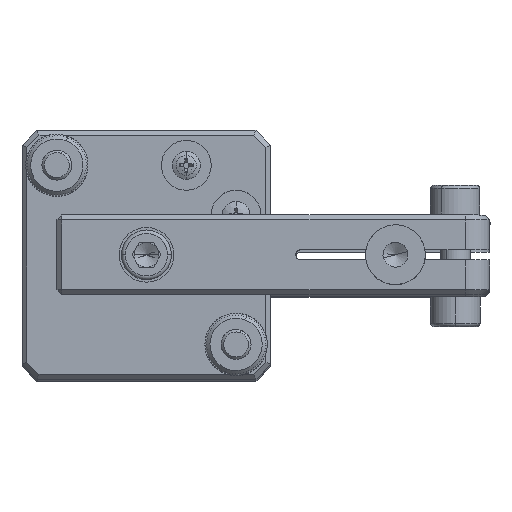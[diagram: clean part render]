
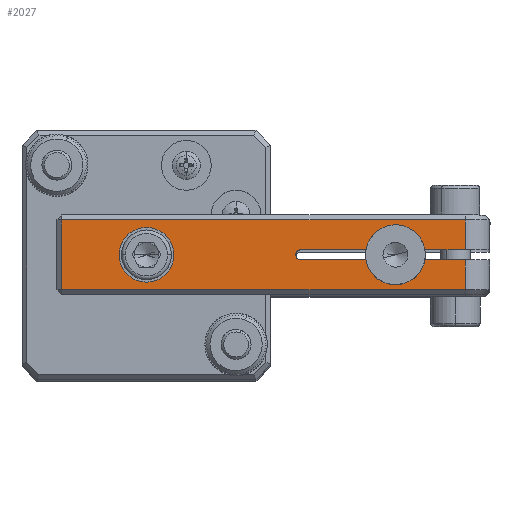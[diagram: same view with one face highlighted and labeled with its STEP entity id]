
A CAD part, top view. The second image highlights one B-rep face of the part: STEP entity #2027.
In plain terms, the highlighted planar face has unit normal (0, 0, 1) as drawn and (0, 0, -1) by its records, which use the part's own axes.
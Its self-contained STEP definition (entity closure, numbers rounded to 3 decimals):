
#77 = CARTESIAN_POINT ( 'NONE',  ( -1., 38., -8. ) ) ;
#148 = EDGE_CURVE ( 'NONE', #916, #20960, #14848, .T. ) ;
#170 = CARTESIAN_POINT ( 'NONE',  ( -1., 5., -8. ) ) ;
#272 = ORIENTED_EDGE ( 'NONE', *, *, #19335, .T. ) ;
#275 = EDGE_CURVE ( 'NONE', #20960, #21421, #7960, .T. ) ;
#692 = CIRCLE ( 'NONE', #21172, 6. ) ;
#758 = DIRECTION ( 'NONE',  ( 1., 0., 0. ) ) ;
#916 = VERTEX_POINT ( 'NONE', #17717 ) ;
#1155 = AXIS2_PLACEMENT_3D ( 'NONE', #18132, #18440, #8628 ) ;
#1804 = CARTESIAN_POINT ( 'NONE',  ( 1., 5., -8. ) ) ;
#1966 = EDGE_CURVE ( 'NONE', #20440, #15320, #18434, .T. ) ;
#2027 = ADVANCED_FACE ( 'NONE', ( #3937, #11385 ), #10624, .F. ) ;
#2043 = LINE ( 'NONE', #8676, #9266 ) ;
#2220 = VECTOR ( 'NONE', #5333, 1000. ) ;
#2353 = DIRECTION ( 'NONE',  ( 0., 0., 1. ) ) ;
#2423 = LINE ( 'NONE', #1804, #16921 ) ;
#2519 = CARTESIAN_POINT ( 'NONE',  ( 6., 19., -8. ) ) ;
#3260 = DIRECTION ( 'NONE',  ( 0., 0., 1. ) ) ;
#3366 = ORIENTED_EDGE ( 'NONE', *, *, #19453, .F. ) ;
#3489 = DIRECTION ( 'NONE',  ( -1., 0., 0. ) ) ;
#3678 = AXIS2_PLACEMENT_3D ( 'NONE', #15941, #17037, #17465 ) ;
#3931 = DIRECTION ( 'NONE',  ( 0., 0., 1. ) ) ;
#3937 = FACE_BOUND ( 'NONE', #15305, .T. ) ;
#4042 = DIRECTION ( 'NONE',  ( 1., 0., 0. ) ) ;
#4293 = VERTEX_POINT ( 'NONE', #13423 ) ;
#4496 = VECTOR ( 'NONE', #12397, 1000. ) ;
#4649 = CARTESIAN_POINT ( 'NONE',  ( -7., 5., -8. ) ) ;
#4784 = LINE ( 'NONE', #12101, #4496 ) ;
#5046 = EDGE_CURVE ( 'NONE', #21421, #4293, #2043, .T. ) ;
#5104 = EDGE_CURVE ( 'NONE', #14479, #6150, #16659, .T. ) ;
#5293 = DIRECTION ( 'NONE',  ( 0., -1., 0. ) ) ;
#5313 = ORIENTED_EDGE ( 'NONE', *, *, #19269, .T. ) ;
#5333 = DIRECTION ( 'NONE',  ( 0., 1., 0. ) ) ;
#5512 = CARTESIAN_POINT ( 'NONE',  ( -7., 86., -8. ) ) ;
#5541 = VECTOR ( 'NONE', #21150, 1000. ) ;
#5680 = CARTESIAN_POINT ( 'NONE',  ( -7., 87., -8. ) ) ;
#5774 = ORIENTED_EDGE ( 'NONE', *, *, #14559, .T. ) ;
#6011 = LINE ( 'NONE', #5680, #13726 ) ;
#6150 = VERTEX_POINT ( 'NONE', #12534 ) ;
#6319 = VERTEX_POINT ( 'NONE', #21376 ) ;
#6353 = ORIENTED_EDGE ( 'NONE', *, *, #148, .F. ) ;
#6628 = DIRECTION ( 'NONE',  ( 1., 0., 0. ) ) ;
#6726 = ORIENTED_EDGE ( 'NONE', *, *, #5104, .F. ) ;
#7198 = ORIENTED_EDGE ( 'NONE', *, *, #275, .F. ) ;
#7381 = ORIENTED_EDGE ( 'NONE', *, *, #10855, .F. ) ;
#7506 = VERTEX_POINT ( 'NONE', #13857 ) ;
#7960 = CIRCLE ( 'NONE', #12164, 1. ) ;
#8223 = VERTEX_POINT ( 'NONE', #16384 ) ;
#8588 = CARTESIAN_POINT ( 'NONE',  ( -1., 38., -8. ) ) ;
#8628 = DIRECTION ( 'NONE',  ( 1., 0., 0. ) ) ;
#8669 = DIRECTION ( 'NONE',  ( 1., 0., 0. ) ) ;
#8676 = CARTESIAN_POINT ( 'NONE',  ( 1., 38., -8. ) ) ;
#8805 = CARTESIAN_POINT ( 'NONE',  ( 0., 69., -8. ) ) ;
#9196 = CARTESIAN_POINT ( 'NONE',  ( 1., 38., -8. ) ) ;
#9246 = EDGE_CURVE ( 'NONE', #7506, #6319, #9819, .T. ) ;
#9266 = VECTOR ( 'NONE', #16930, 1000. ) ;
#9362 = AXIS2_PLACEMENT_3D ( 'NONE', #8805, #14056, #13758 ) ;
#9676 = AXIS2_PLACEMENT_3D ( 'NONE', #15686, #2353, #4042 ) ;
#9819 = LINE ( 'NONE', #21557, #16789 ) ;
#10624 = PLANE ( 'NONE',  #9676 ) ;
#10743 = ORIENTED_EDGE ( 'NONE', *, *, #1966, .F. ) ;
#10855 = EDGE_CURVE ( 'NONE', #8223, #17041, #19998, .T. ) ;
#10943 = CARTESIAN_POINT ( 'NONE',  ( 5.5, 69., -8. ) ) ;
#11385 = FACE_OUTER_BOUND ( 'NONE', #15477, .T. ) ;
#12101 = CARTESIAN_POINT ( 'NONE',  ( -8., 5., -8. ) ) ;
#12164 = AXIS2_PLACEMENT_3D ( 'NONE', #19462, #19619, #21163 ) ;
#12241 = LINE ( 'NONE', #16341, #19001 ) ;
#12397 = DIRECTION ( 'NONE',  ( -1., 0., 0. ) ) ;
#12534 = CARTESIAN_POINT ( 'NONE',  ( -1., 13.084, -8. ) ) ;
#12658 = ORIENTED_EDGE ( 'NONE', *, *, #14976, .T. ) ;
#13329 = CARTESIAN_POINT ( 'NONE',  ( -5.5, 69., -8. ) ) ;
#13423 = CARTESIAN_POINT ( 'NONE',  ( 1., 24.916, -8. ) ) ;
#13726 = VECTOR ( 'NONE', #14719, 1000. ) ;
#13758 = DIRECTION ( 'NONE',  ( -1., 0., 0. ) ) ;
#13826 = ORIENTED_EDGE ( 'NONE', *, *, #18484, .T. ) ;
#13857 = CARTESIAN_POINT ( 'NONE',  ( 7., 86., -8. ) ) ;
#13902 = ORIENTED_EDGE ( 'NONE', *, *, #21044, .T. ) ;
#14056 = DIRECTION ( 'NONE',  ( 0., 0., -1. ) ) ;
#14413 = AXIS2_PLACEMENT_3D ( 'NONE', #19047, #3931, #8669 ) ;
#14479 = VERTEX_POINT ( 'NONE', #170 ) ;
#14559 = EDGE_CURVE ( 'NONE', #20666, #4293, #21352, .T. ) ;
#14673 = VECTOR ( 'NONE', #17317, 1000. ) ;
#14719 = DIRECTION ( 'NONE',  ( 0., 1., 0. ) ) ;
#14848 = LINE ( 'NONE', #17619, #14673 ) ;
#14976 = EDGE_CURVE ( 'NONE', #19987, #7506, #12241, .T. ) ;
#15305 = EDGE_LOOP ( 'NONE', ( #10743, #3366 ) ) ;
#15320 = VERTEX_POINT ( 'NONE', #10943 ) ;
#15477 = EDGE_LOOP ( 'NONE', ( #12658, #20581, #5313, #7381, #272, #5774, #20628, #7198, #6353, #13826, #6726, #20610, #13902 ) ) ;
#15686 = CARTESIAN_POINT ( 'NONE',  ( -8., 87., -8. ) ) ;
#15941 = CARTESIAN_POINT ( 'NONE',  ( 0., 69., -8. ) ) ;
#16341 = CARTESIAN_POINT ( 'NONE',  ( -8., 86., -8. ) ) ;
#16384 = CARTESIAN_POINT ( 'NONE',  ( 1., 13.084, -8. ) ) ;
#16603 = EDGE_CURVE ( 'NONE', #14479, #17319, #4784, .T. ) ;
#16659 = LINE ( 'NONE', #77, #2220 ) ;
#16789 = VECTOR ( 'NONE', #5293, 1000. ) ;
#16921 = VECTOR ( 'NONE', #3489, 1000. ) ;
#16930 = DIRECTION ( 'NONE',  ( 0., -1., 0. ) ) ;
#17037 = DIRECTION ( 'NONE',  ( 0., 0., -1. ) ) ;
#17041 = VERTEX_POINT ( 'NONE', #20700 ) ;
#17317 = DIRECTION ( 'NONE',  ( 0., 1., 0. ) ) ;
#17319 = VERTEX_POINT ( 'NONE', #4649 ) ;
#17465 = DIRECTION ( 'NONE',  ( -1., 0., 0. ) ) ;
#17566 = CIRCLE ( 'NONE', #14413, 6. ) ;
#17619 = CARTESIAN_POINT ( 'NONE',  ( -1., 38., -8. ) ) ;
#17717 = CARTESIAN_POINT ( 'NONE',  ( -1., 24.916, -8. ) ) ;
#17758 = CIRCLE ( 'NONE', #9362, 5.5 ) ;
#17803 = CARTESIAN_POINT ( 'NONE',  ( 0., 19., -8. ) ) ;
#18050 = CARTESIAN_POINT ( 'NONE',  ( 1., 38., -8. ) ) ;
#18132 = CARTESIAN_POINT ( 'NONE',  ( 0., 19., -8. ) ) ;
#18434 = CIRCLE ( 'NONE', #3678, 5.5 ) ;
#18440 = DIRECTION ( 'NONE',  ( 0., 0., 1. ) ) ;
#18484 = EDGE_CURVE ( 'NONE', #916, #6150, #692, .T. ) ;
#19001 = VECTOR ( 'NONE', #758, 1000. ) ;
#19047 = CARTESIAN_POINT ( 'NONE',  ( 0., 19., -8. ) ) ;
#19269 = EDGE_CURVE ( 'NONE', #6319, #17041, #2423, .T. ) ;
#19335 = EDGE_CURVE ( 'NONE', #8223, #20666, #17566, .T. ) ;
#19453 = EDGE_CURVE ( 'NONE', #15320, #20440, #17758, .T. ) ;
#19462 = CARTESIAN_POINT ( 'NONE',  ( 0., 38., -8. ) ) ;
#19619 = DIRECTION ( 'NONE',  ( 0., 0., -1. ) ) ;
#19987 = VERTEX_POINT ( 'NONE', #5512 ) ;
#19998 = LINE ( 'NONE', #18050, #5541 ) ;
#20440 = VERTEX_POINT ( 'NONE', #13329 ) ;
#20581 = ORIENTED_EDGE ( 'NONE', *, *, #9246, .T. ) ;
#20610 = ORIENTED_EDGE ( 'NONE', *, *, #16603, .T. ) ;
#20628 = ORIENTED_EDGE ( 'NONE', *, *, #5046, .F. ) ;
#20666 = VERTEX_POINT ( 'NONE', #2519 ) ;
#20700 = CARTESIAN_POINT ( 'NONE',  ( 1., 5., -8. ) ) ;
#20960 = VERTEX_POINT ( 'NONE', #8588 ) ;
#21044 = EDGE_CURVE ( 'NONE', #17319, #19987, #6011, .T. ) ;
#21150 = DIRECTION ( 'NONE',  ( 0., -1., 0. ) ) ;
#21163 = DIRECTION ( 'NONE',  ( -1., 0., 0. ) ) ;
#21172 = AXIS2_PLACEMENT_3D ( 'NONE', #17803, #3260, #6628 ) ;
#21352 = CIRCLE ( 'NONE', #1155, 6. ) ;
#21376 = CARTESIAN_POINT ( 'NONE',  ( 7., 5., -8. ) ) ;
#21421 = VERTEX_POINT ( 'NONE', #9196 ) ;
#21557 = CARTESIAN_POINT ( 'NONE',  ( 7., 87., -8. ) ) ;
